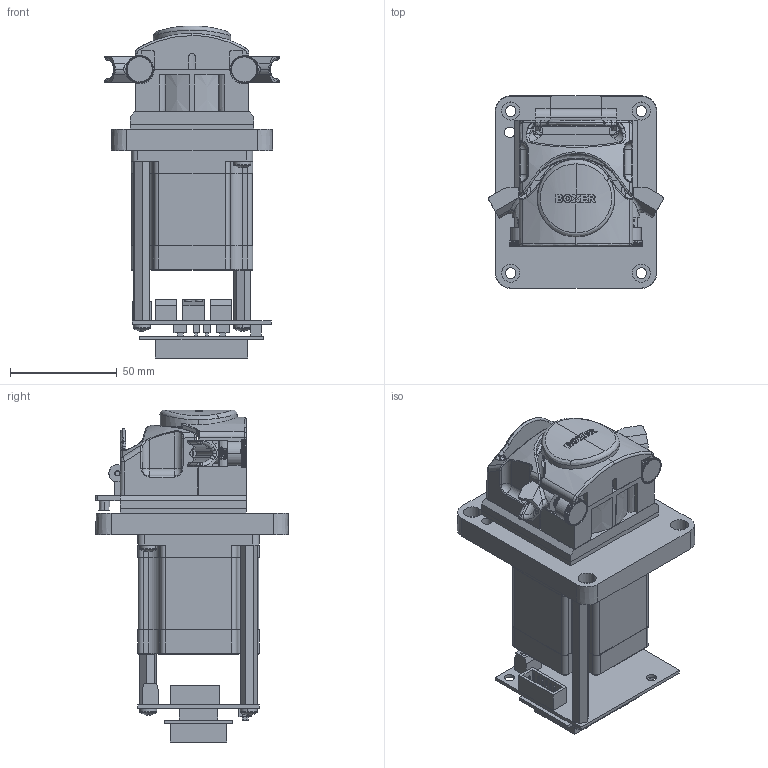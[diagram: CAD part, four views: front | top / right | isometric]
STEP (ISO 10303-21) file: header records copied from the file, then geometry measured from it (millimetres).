
FILE_DESCRIPTION (( 'STEP AP203' ), '1' );
FILE_NAME ('15KS+iD.STEP', '2017-01-26T23:37:24', ( '' ), ( '' ), 'SwSTEP 2.0', 'SolidWorks 2015', '' );
FILE_SCHEMA (( 'CONFIG_CONTROL_DESIGN' ));
Products named in the file (1): 15KS+iD
Bounding box: 81.81 x 90.43 x 155.73 mm (x, y, z)
Surface area: 80718.3 mm2 (no closed solid volume)
Topology: 0 solids, 42 shells, 1327 faces, 4772 edges, 3342 vertices
Faces by surface type: plane 584, cylinder 332, bspline 243, cone 101, torus 49, sphere 18
Entity records: 67818 total; most frequent: CARTESIAN_POINT 30511, ORIENTED_EDGE 7833, DIRECTION 6900, EDGE_CURVE 4772, VERTEX_POINT 3342, AXIS2_PLACEMENT_3D 2320, LINE 2260, VECTOR 2260
